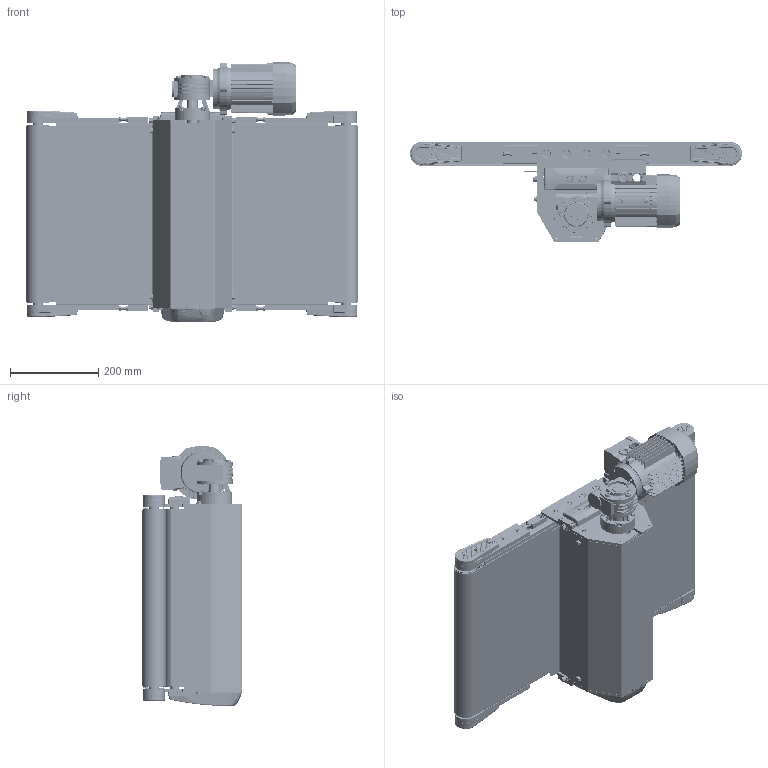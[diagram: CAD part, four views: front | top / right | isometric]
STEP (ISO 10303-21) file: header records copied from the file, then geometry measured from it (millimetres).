
FILE_DESCRIPTION (( 'STEP AP203' ), '1' );
FILE_NAME ('NASTRO_RETTILINEO_TAPPETO.step', '2026-06-04T07:14:21', ( 'Utente Windows' ), ( '' ), 'SwSTEP 2.0', 'SolidWorks 2024', '' );
FILE_SCHEMA (( 'CONFIG_CONTROL_DESIGN' ));
Length unit declared in the file: millimetre
Products named in the file (50): RONDELLE UNI 6592_8.4x17 UNI 6592; 084.302.000 DADI ALUSIC 13x13_084.302.015; 084.802.070; BLOCCO_TRAINO_50-95_CENTRALE_30; VITI TSEI UNI 5933_M6x12 UNI 5933; 084.302.000 DADI ALUSIC 13x13_084.302.004; 084.802.008; 084.802.017_084.802.017; 084.802.004-1; 084.802.071; CARTER_50-95_CINGHIE_CENTRALE; 084.301.000 VITI ALUSIC_084.301.003; VITE_DADO_M6X12; RONDELLE UNI 6592_6.4x12.5 UNI 6592; 084.802.064; CH03F_DX; 084.802.003; VITI TE UNI 5739_M6x16 UNI 5739; 084.807.002_084.807.002; RULLO_95_CINGHIE_Default<A macchina>; 084.802.020; VITI TSEI UNI 5933_M5x12 UNI 5933; 084.302.000 DADI ALUSIC 13x13-1_084.302.007; VITI TSEI UNI 5933_M4x10 UNI 5933; BLOCCO_TRAINO_50-95_CENTRALE; VITI TE UNI 5739_M6x12 UNI 5739; 449.014.106; VITE_DADO_M5X12; PERNO_95_TRAINO_CENT_CINGHIE_30_DX_Default<A macchina>; 084.303.001; BLOCCO_RINVIO_50_STANDARD; VITI TE UNI 5739_M8x12 UNI 5739; GUIDA_CINGHIA_Z_95; LAMIERA_STANDARD; DADO ESAGONALE M30 AUTOBLOCCANTE UNI 7473_M30 UNI 7473; NASTRO_RETTILINEO_TAPPETO; 084.302.017; PERNO_TENSIONAMENTO_50-95_CENTRALE; TAPPETO_CENTRALE_CINGHIE; 084.802.021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
Assembly tree (117 placements, depth 3):
  NASTRO_RETTILINEO_TAPPETO
    TAPPETO_CENTRALE_CINGHIE
    TELAIO_50_CINGHIE_Default<A macchina>
    LAMIERA_STANDARD
    RULLO_50_RINVIO_CINGHIE  x2
    BLOCCO_RINVIO_50_STANDARD  x4
      084.807.002_084.807.002
      084.802.017_084.802.017
      084.802.008
      084.301.000 VITI ALUSIC_084.301.003
      084.302.000 DADI ALUSIC 13x13_084.302.004
      VITI TSEI UNI 5933_M4x10 UNI 5933
      084.802.071
    RULLO_95_CINGHIE_Default<A macchina>
    BLOCCO_TRAINO_50-95_CENTRALE_30
      084.802.009
      084.802.021
      084.802.004-1  x2
      084.802.003
      VITI TSEI UNI 5933_M8x20 UNI 5933  x4
      084.302.017
      VITI TE UNI 5739_M6x16 UNI 5739  x6
      RONDELLE UNI 6592_6.4x12.5 UNI 6592  x2
      DADI ESAGONALI NORMALI UNI 5588_M6 UNI 5588  x2
      VITI TE UNI 5739_M6x50 UNI 5739  x2
      VITI TSEI UNI 5933_M6x12 UNI 5933  x6
      VITI TSEI UNI 5933_M8x16 UNI 5933  x3
      084.802.070
    BLOCCO_TRAINO_50-95_CENTRALE
      084.802.004-1  x2
      084.802.020
      084.802.003
      VITI TSEI UNI 5933_M8x20 UNI 5933  x4
      VITI TSEI UNI 5933_M6x12 UNI 5933  x6
      RONDELLE UNI 6592_8.4x17 UNI 6592  x2
      VITI TE UNI 5739_M8x12 UNI 5739  x2
      VITI TE UNI 5739_M6x16 UNI 5739  x2
      084.302.017
      RONDELLE UNI 6592_6.4x12.5 UNI 6592  x2
      VITI TE UNI 5739_M6x50 UNI 5739  x2
      DADI ESAGONALI NORMALI UNI 5588_M6 UNI 5588  x2
      084.802.064
    PERNO_95_TRAINO_CENT_CINGHIE_30_DX_Default<A macchina>
    CARTER_50-95_CINGHIE_CENTRALE
    RULLO_TENSIONAMENTO_50-95_CENTRALE  x2
    PERNO_TENSIONAMENTO_50-95_CENTRALE  x2
    TRAVERSA_50-95_CENTRALE_Default<A macchina>  x2
    GUIDA_CINGHIA_Z_95  x2
      449.014.106
      DADO ESAGONALE M30 AUTOBLOCCANTE UNI 7473_M30 UNI 7473
    VITE_DADO_M6X12  x4
      084.302.000 DADI ALUSIC 13x13_084.302.015
      VITI TE UNI 5739_M6x12 UNI 5739
      RONDELLE UNI 6592_6.4x12.5 UNI 6592
    VITE_RONDELLA_M8X20  x3
      084.303.001
      084.301.000 VITI ALUSIC_084.301.003
    VITE_DADO_M5X12  x6
      084.302.000 DADI ALUSIC 13x13-1_084.302.007
      VITI TSEI UNI 5933_M5x12 UNI 5933
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Bounding box: 754 x 227.5 x 590.39 mm (x, y, z)
Volume: 11316037.8 mm3; surface area: 5712784.2 mm2
Topology: 189 solids, 193 shells, 8475 faces, 21568 edges, 13644 vertices
Faces by surface type: plane 3793, cylinder 2277, cone 1071, bspline 963, torus 292, sphere 79
Entity records: 188174 total; most frequent: CARTESIAN_POINT 74786, ORIENTED_EDGE 23880, DIRECTION 20042, EDGE_CURVE 11940, VERTEX_POINT 7587, AXIS2_PLACEMENT_3D 7431, LINE 5180, VECTOR 5180
